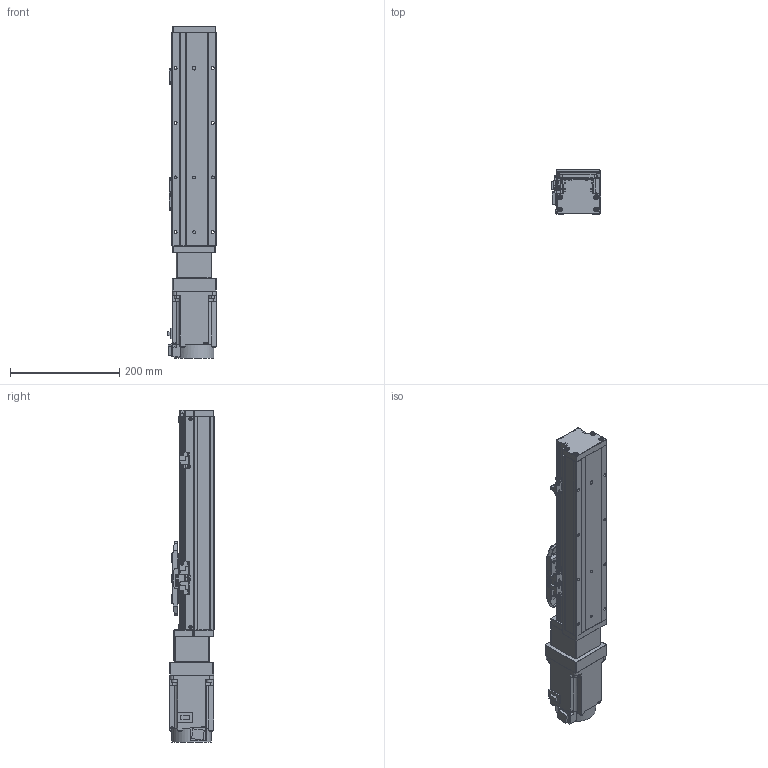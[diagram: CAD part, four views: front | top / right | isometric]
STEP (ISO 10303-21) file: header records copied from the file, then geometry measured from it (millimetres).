
FILE_DESCRIPTION (( 'STEP AP203' ), '1' );
FILE_NAME ('GTH8-200-BC-M75-C4.step', '2023-02-14T02:18:43', ( '微软用户' ), ( '微软中国' ), 'SwSTEP 2.0', 'SolidWorks 2020', '' );
FILE_SCHEMA (( 'CONFIG_CONTROL_DESIGN' ));
Length unit declared in the file: millimetre
Products named in the file (19): GTH80-006; GTH50-024; hg-kn73j_-s100; GTH80-013; GTH50-023; GTH8-200-BC-M75-C4; GBT 70.3-M3℅6; GBT96.1-2002 3×0.8; GTH80-022; BTH-M3X5X6; GTH80-001_200; GBT 70.1-M3℅6; CTHA86-006-1_CTHA86-006-4; GTH80-003; GBT 70.1-M4×16; CTHA86-013; GTH80-004; GTH80-028; CTHA86-027
Assembly tree (60 placements, depth 2):
  GTH8-200-BC-M75-C4
    GTH80-001_200
    GTH80-003
    GTH80-004
    GTH80-006
    GTH80-013
    GBT 70.3-M3℅6  x6
    GTH80-022
    GBT 70.1-M3℅6  x14
    GBT 70.1-M4×16  x8
    GTH80-028  x2
    GTH50-024  x3
    GTH50-023  x3
    GBT96.1-2002 3×0.8  x6
    BTH-M3X5X6  x8
    CTHA86-006-1_CTHA86-006-4
    CTHA86-013
    CTHA86-027
    hg-kn73j_-s100
Bounding box: 89.8 x 81.72 x 607.2 mm (x, y, z)
Volume: 2917736.7 mm3; surface area: 342531.7 mm2
Topology: 62 solids, 62 shells, 2241 faces, 5150 edges, 3136 vertices
Faces by surface type: plane 1185, cylinder 599, cone 285, torus 162, sphere 8, bspline 2
Entity records: 39045 total; most frequent: CARTESIAN_POINT 6434, DIRECTION 6419, ORIENTED_EDGE 5890, EDGE_CURVE 2945, AXIS2_PLACEMENT_3D 2239, LINE 1941, VECTOR 1941, VERTEX_POINT 1849
